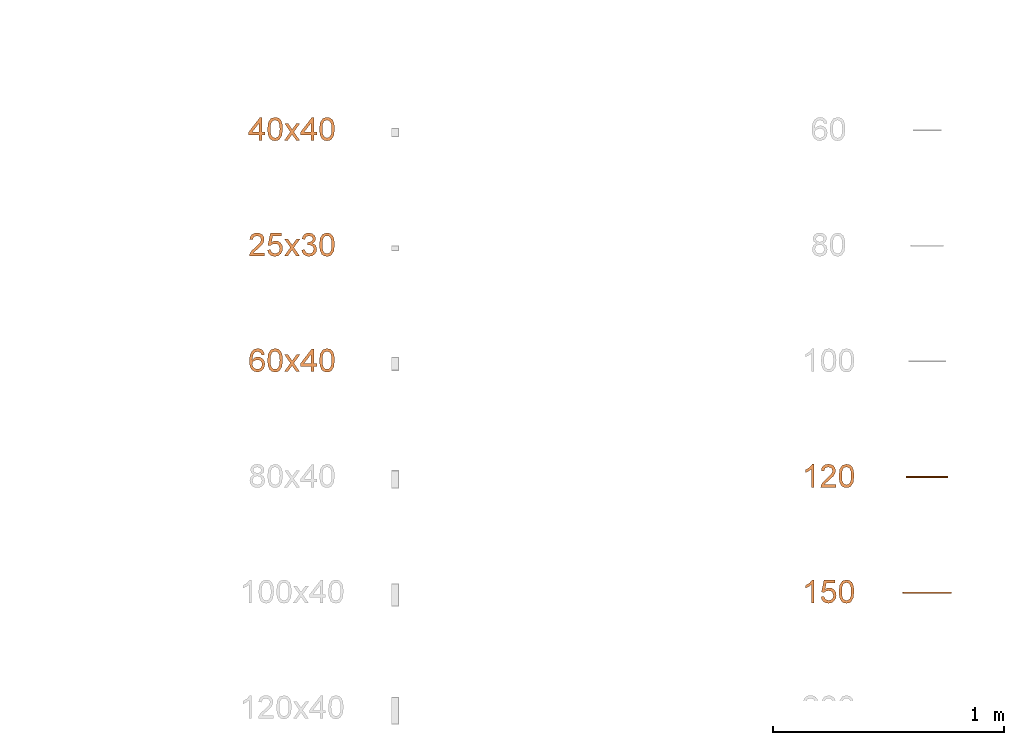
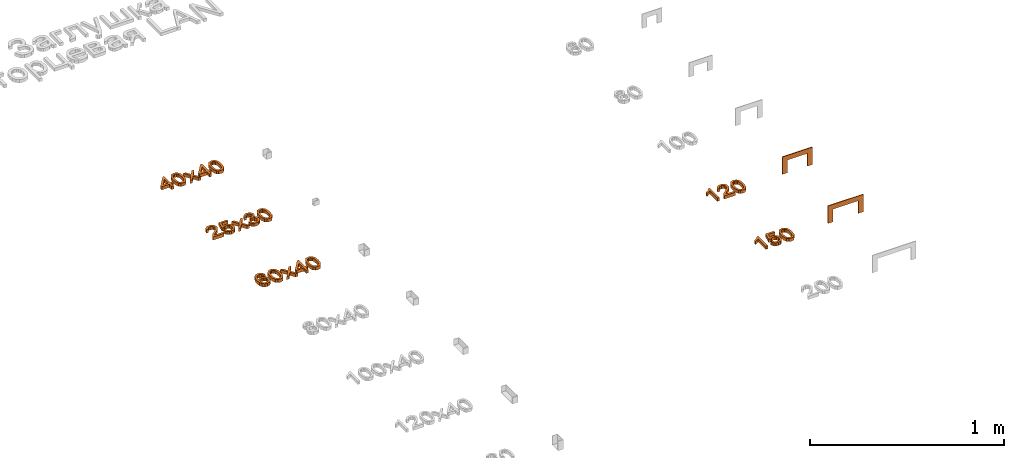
# One storey, part 65 of 71: 7 proxies.
"""IFC2X3 building model written with IfcOpenShell, lengths in millimetres."""

from ifc_helpers import new_model, entity, si_unit, converted_unit, derived_unit, direction, frame, origin, place, context, subcontext, project, spatial, polyline, outline, extrude, source, transform, mapped, material, type_object, type_shapes, element, save


model = new_model("IFC2X3")

# Units and contexts
model_context = context("Model", 3, precision=0.01, world=origin(), true_north=direction((6.12303176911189e-17, 1.0)))
body_context = subcontext(model_context, "Body", "Model", "MODEL_VIEW")
ifc_project = project(units=[si_unit("LENGTHUNIT", "METRE", prefix="MILLI"), si_unit("AREAUNIT", "SQUARE_METRE"), si_unit("VOLUMEUNIT", "CUBIC_METRE"), converted_unit("PLANEANGLEUNIT", "DEGREE", entity("IfcRatioMeasure", 0.0174532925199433), si_unit("PLANEANGLEUNIT", "RADIAN"), dimensions=[0, 0, 0, 0, 0, 0, 0]), si_unit("MASSUNIT", "GRAM", prefix="KILO"), derived_unit("MASSDENSITYUNIT", [(si_unit("MASSUNIT", "GRAM", prefix="KILO"), 1), (si_unit("LENGTHUNIT", "METRE"), -3)]), si_unit("TIMEUNIT", "SECOND"), si_unit("FREQUENCYUNIT", "HERTZ"), si_unit("THERMODYNAMICTEMPERATUREUNIT", "DEGREE_CELSIUS"), derived_unit("THERMALTRANSMITTANCEUNIT", [(si_unit("MASSUNIT", "GRAM", prefix="KILO"), 1), (si_unit("THERMODYNAMICTEMPERATUREUNIT", "KELVIN"), -1), (si_unit("TIMEUNIT", "SECOND"), -3)]), derived_unit("VOLUMETRICFLOWRATEUNIT", [(si_unit("LENGTHUNIT", "METRE"), 3), (si_unit("TIMEUNIT", "SECOND"), -1)]), si_unit("ELECTRICCURRENTUNIT", "AMPERE"), si_unit("ELECTRICVOLTAGEUNIT", "VOLT"), si_unit("POWERUNIT", "WATT"), si_unit("FORCEUNIT", "NEWTON", prefix="KILO"), si_unit("ILLUMINANCEUNIT", "LUX"), si_unit("LUMINOUSFLUXUNIT", "LUMEN"), si_unit("LUMINOUSINTENSITYUNIT", "CANDELA"), derived_unit("USERDEFINED", [(si_unit("MASSUNIT", "GRAM", prefix="KILO"), -1), (si_unit("LENGTHUNIT", "METRE"), -2), (si_unit("TIMEUNIT", "SECOND"), 3), (si_unit("LUMINOUSFLUXUNIT", "LUMEN"), 1)]), derived_unit("LINEARVELOCITYUNIT", [(si_unit("LENGTHUNIT", "METRE"), 1), (si_unit("TIMEUNIT", "SECOND"), -1)]), si_unit("PRESSUREUNIT", "PASCAL"), derived_unit("USERDEFINED", [(si_unit("LENGTHUNIT", "METRE"), -2), (si_unit("MASSUNIT", "GRAM", prefix="KILO"), 1), (si_unit("TIMEUNIT", "SECOND"), -2)])], contexts=[model_context])

# Site, building, storey
site_placement = place(None, origin())
site = spatial("IfcSite", under=ifc_project, at=site_placement, Name="Default", CompositionType="ELEMENT")
building_placement = place(site_placement, origin())
building = spatial("IfcBuilding", under=site, at=building_placement, Name="Наименование здания", CompositionType="ELEMENT")
storey_placement = place(building_placement, origin())
storey = spatial("IfcBuildingStorey", under=building, at=storey_placement, Name="Этаж 01", CompositionType="ELEMENT", Elevation=0.0)

# Proxies
ifc_material = material(Name="DKC_Пластик_Белый")
building_element_proxy_type_1 = type_object("IfcBuildingElementProxyType", Name="TA-GN 60x...", PredefinedType="NOTDEFINED", material=ifc_material)
shared_shape_1 = source(origin(), body_context, "Body", "SweptSolid", [
    extrude(outline(polyline([(-90.0, -62.5000000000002), (90.0, -62.5000000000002), (90.0, 47.5000000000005), (60.0, 47.5000000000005), (60.0, -32.5000000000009), (-60.0, -32.5000000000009), (-60.0, 47.5000000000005), (-90.0, 47.5000000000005), (-90.0, -62.5000000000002)])), frame((0.0, -5.0, 47.5000000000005), z_axis=(0.0, 1.0, 0.0), x_axis=(1.0, 0.0, 0.0)), (0.0, 0.0, 1.0), 5.00000000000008),
])
type_shapes(building_element_proxy_type_1, [shared_shape_1])
proxy_1_placement = place(storey_placement, frame((26885.9059986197, 1593.71330379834, 0.0)))
element("IfcBuildingElementProxy", 1, at=proxy_1_placement, inside=storey, type_object=building_element_proxy_type_1, material=ifc_material, Name="КНС_РамкаДляВводаRQM_ILC_DKC:TA-GN 60x...", ObjectType="TA-GN 60x...", context=body_context, shape_type="MappedRepresentation", body=[
    mapped(shared_shape_1, transform((0.0, 0.0, 0.0), scale=1.0)),
])
building_element_proxy_type_2 = type_object("IfcBuildingElementProxyType", Name="TA-GN 60x...", PredefinedType="NOTDEFINED", material=ifc_material)
shared_shape_2 = source(origin(), body_context, "Body", "SweptSolid", [
    extrude(outline(polyline([(-105.0, -62.5000000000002), (105.0, -62.5000000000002), (105.0, 47.5000000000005), (75.0, 47.5000000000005), (75.0, -32.5000000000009), (-75.0, -32.5000000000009), (-75.0, 47.5000000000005), (-105.0, 47.5000000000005), (-105.0, -62.5000000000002)])), frame((0.0, -5.0, 47.5000000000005), z_axis=(0.0, 1.0, 0.0), x_axis=(1.0, 0.0, 0.0)), (0.0, 0.0, 1.0), 5.00000000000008),
])
type_shapes(building_element_proxy_type_2, [shared_shape_2])
proxy_2_placement = place(storey_placement, frame((26885.9059986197, 1093.71330379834, 0.0)))
element("IfcBuildingElementProxy", 2, at=proxy_2_placement, inside=storey, type_object=building_element_proxy_type_2, material=ifc_material, Name="КНС_РамкаДляВводаRQM_ILC_DKC:TA-GN 60x...", ObjectType="TA-GN 60x...", context=body_context, shape_type="MappedRepresentation", body=[
    mapped(shared_shape_2, transform((0.0, 0.0, 0.0), scale=1.0)),
])
proxy_3_placement = place(storey_placement, origin())
element("IfcBuildingElementProxy", 3, at=proxy_3_placement, inside=storey, Name="Текст модели:100 мм Arial", ObjectType="Текст модели:100 мм Arial", context=body_context, shape_type="SweptSolid", body=[
    extrude(outline(polyline([(-1.14154897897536, -36.3868737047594), (11.4154897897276, -36.3868737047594), (11.4154897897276, -12.8424260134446), (23.9725285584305, -12.8424260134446), (23.9725285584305, -0.285387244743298), (11.4154897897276, -0.285387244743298), (11.4154897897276, 62.4998065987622), (1.99771071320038, 62.4998065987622), (-46.6608145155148, -0.285387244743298), (-46.6608145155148, -12.8424260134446), (-1.14154897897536, -12.8424260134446), (-1.14154897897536, -36.3868737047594)]), holes=[polyline([(-1.14154897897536, -0.285387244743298), (-31.2097707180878, -0.285387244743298), (-1.14154897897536, 38.5139005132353), (-1.14154897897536, -0.285387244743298)])]), frame((23998.363794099, 3083.05161790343, 0.0)), (0.0, 0.0, 1.0), 20.0),
    extrude(outline(polyline([(-7.02884310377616, -33.3490673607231), (17.5323805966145, -33.3490673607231), (35.1984171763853, -27.6137612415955), (43.3439841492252, -18.4876517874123), (47.0516941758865, -5.75150665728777), (46.716202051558, 4.48638208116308), (43.4465778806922, 13.0955287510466), (27.9444305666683, 25.6659118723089), (-0.314338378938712, 32.2325535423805), (-24.0296505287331, 32.367828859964), (-39.4143020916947, 28.0260881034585), (-49.7293680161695, 18.9002174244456), (-54.4436715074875, 4.63998875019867), (-50.8676582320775, -14.1301059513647), (-35.405854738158, -26.7333390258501), (-7.02884310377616, -33.3490673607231)]), holes=[polyline([(-5.77428774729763, -20.8548320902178), (-25.0157644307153, -17.3562860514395), (-36.725708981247, -11.5717922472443), (-41.0962588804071, -4.77599682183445), (-41.9669219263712, 3.21464792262), (-39.2244253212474, 11.2791292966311), (-32.8654063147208, 17.2229259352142), (-20.9698370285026, 20.2947501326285), (-1.61768958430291, 19.743314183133), (17.8514140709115, 16.2707701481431), (28.7803640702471, 10.7141596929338), (33.5546988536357, 3.61815959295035), (34.5599568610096, -4.47255337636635), (31.9421230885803, -12.192319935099), (25.8471825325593, -18.1754808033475), (14.0250679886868, -21.4027476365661), (-5.77428774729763, -20.8548320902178)])]), frame((24067.2152691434, 3092.48792113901, 0.0), z_axis=(0.0, 0.0, 1.0), x_axis=(0.101851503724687, -0.994799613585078, 0.0)), (0.0, 0.0, 1.0), 20.0),
    extrude(outline(polyline([(-34.5302215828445, -38.4265006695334), (-19.4225343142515, -38.4265006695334), (-0.341721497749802, -12.0616243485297), (2.47870713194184, -16.1328517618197), (17.8561745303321, -38.4265006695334), (32.9638617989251, -38.4265006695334), (7.40832586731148, -1.34399555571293), (33.9448804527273, 35.3461020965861), (18.8371931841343, 35.3461020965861), (4.95577923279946, 16.1671874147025), (0.0261604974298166, 9.34910777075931), (-5.66374769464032, 17.6877663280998), (-17.8529044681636, 35.3461020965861), (-32.9605917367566, 35.3461020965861), (-7.69936140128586, -1.34399555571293), (-34.5302215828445, -38.4265006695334)])), frame((24140.0569260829, 3085.09124486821, 0.0)), (0.0, 0.0, 1.0), 20.0),
    extrude(outline(polyline([(-1.14154897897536, -36.3868737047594), (11.4154897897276, -36.3868737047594), (11.4154897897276, -12.8424260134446), (23.9725285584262, -12.8424260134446), (23.9725285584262, -0.285387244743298), (11.4154897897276, -0.285387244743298), (11.4154897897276, 62.4998065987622), (1.99771071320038, 62.4998065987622), (-46.6608145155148, -0.285387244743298), (-46.6608145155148, -12.8424260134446), (-1.14154897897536, -12.8424260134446), (-1.14154897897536, -36.3868737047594)]), holes=[polyline([(-1.14154897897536, -0.285387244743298), (-31.2097707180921, -0.285387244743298), (-1.14154897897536, 38.5139005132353), (-1.14154897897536, -0.285387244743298)])]), frame((24222.8208620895, 3083.05161790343, 0.0)), (0.0, 0.0, 1.0), 20.0),
    extrude(outline(polyline([(-7.02884310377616, -33.3490673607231), (17.5323805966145, -33.3490673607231), (35.1984171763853, -27.6137612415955), (43.3439841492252, -18.4876517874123), (47.0516941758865, -5.75150665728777), (46.716202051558, 4.48638208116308), (43.4465778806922, 13.0955287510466), (27.9444305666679, 25.6659118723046), (-0.314338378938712, 32.2325535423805), (-24.0296505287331, 32.367828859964), (-39.4143020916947, 28.0260881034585), (-49.7293680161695, 18.9002174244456), (-54.4436715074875, 4.63998875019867), (-50.8676582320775, -14.1301059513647), (-35.405854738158, -26.7333390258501), (-7.02884310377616, -33.3490673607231)]), holes=[polyline([(-5.77428774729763, -20.8548320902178), (-25.0157644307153, -17.3562860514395), (-36.7257089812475, -11.5717922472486), (-41.0962588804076, -4.77599682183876), (-41.9669219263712, 3.21464792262), (-39.2244253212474, 11.2791292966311), (-32.8654063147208, 17.2229259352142), (-20.9698370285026, 20.2947501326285), (-1.61768958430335, 19.7433141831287), (17.8514140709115, 16.2707701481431), (28.7803640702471, 10.7141596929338), (33.5546988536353, 3.61815959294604), (34.5599568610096, -4.47255337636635), (31.9421230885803, -12.192319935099), (25.8471825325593, -18.1754808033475), (14.0250679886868, -21.4027476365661), (-5.77428774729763, -20.8548320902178)])]), frame((24291.672337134, 3092.48792113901, 0.0), z_axis=(0.0, 0.0, 1.0), x_axis=(0.101851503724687, -0.994799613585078, 0.0)), (0.0, 0.0, 1.0), 20.0),
])
proxy_4_placement = place(storey_placement, origin())
element("IfcBuildingElementProxy", 4, at=proxy_4_placement, inside=storey, Name="Текст модели:100 мм Arial", ObjectType="Текст модели:100 мм Arial", context=body_context, shape_type="SweptSolid", body=[
    extrude(outline(polyline([(-32.3858783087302, -45.1669477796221), (-32.3858783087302, -57.7239865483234), (33.5385752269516, -57.7239865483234), (32.1896745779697, -49.0664969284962), (24.5622545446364, -35.7369059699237), (8.84143061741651, -21.1810416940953), (-12.8390816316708, -0.26081890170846), (-18.2592096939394, 13.9639515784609), (-13.1456499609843, 25.4786580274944), (0.208466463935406, 30.1752848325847), (14.1266686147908, 25.5890226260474), (19.4119066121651, 12.9093565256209), (31.9689453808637, 14.4789863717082), (28.9247218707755, 26.6252235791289), (22.3426998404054, 35.4973110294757), (12.5662358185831, 40.9235704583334), (-0.0613136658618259, 42.732323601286), (-12.7808336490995, 40.721235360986), (-22.5389035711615, 34.6879706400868), (-28.746912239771, 25.6748617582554), (-30.8162484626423, 14.7242410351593), (-28.5844310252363, 2.81712712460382), (-21.1654774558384, -9.49465698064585), (-3.17604789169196, -26.6992716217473), (11.2694517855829, -38.7780637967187), (16.9348345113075, -45.1669477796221), (-32.3858783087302, -45.1669477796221)])), frame((23988.3808145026, 2604.388730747, 0.0), z_axis=(0.0, 0.0, -1.0), x_axis=(-1.0, 0.0, 0.0)), (0.0, 0.0, -1.0), 20.0),
    extrude(outline(polyline([(3.81439562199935, -37.2548959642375), (15.7323946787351, -37.2548959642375), (26.1588137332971, -33.0579698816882), (34.2921694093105, -25.0537205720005), (39.3309783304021, -13.6317508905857), (40.2219288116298, 1.43409098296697), (34.3991305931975, 14.681510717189), (25.5350217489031, 23.1481891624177), (13.9054384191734, 28.2770976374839), (0.912111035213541, 29.4702838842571), (-10.715925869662, 25.7768606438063), (-19.7427074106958, 18.0989984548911), (-24.9322687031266, 7.33886785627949), (-25.5937300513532, -2.21124798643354), (-22.6370240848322, -12.2793380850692), (-47.9924930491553, 0.0204883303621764), (-38.0977082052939, 37.2324069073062), (-50.2330599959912, 40.459241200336), (-62.7370428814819, -6.5652469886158), (-15.5021967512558, -30.4943712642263), (-10.7584434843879, -18.7623737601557), (-14.4216298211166, -10.4922324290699), (-13.6981616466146, 0.722667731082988), (-9.98738154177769, 9.35727561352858), (-4.32553373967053, 14.6878856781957), (11.4370636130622, 15.9400687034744), (19.7481682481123, 12.2772427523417), (25.4355726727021, 6.4063224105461), (28.0665145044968, -1.27212018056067), (27.2082313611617, -10.3575128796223), (19.6530635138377, -21.9256319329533), (5.52431094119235, -24.7161898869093), (3.81439562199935, -37.2548959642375)])), frame((24068.3473429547, 2586.60829824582, 0.0), z_axis=(0.0, 0.0, 1.0), x_axis=(0.256974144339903, -0.966418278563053, 0.0)), (0.0, 0.0, 1.0), 20.0),
    extrude(outline(polyline([(-34.5302215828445, -38.4265006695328), (-19.4225343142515, -38.4265006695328), (-0.341721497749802, -12.0616243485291), (2.47870713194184, -16.1328517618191), (17.8561745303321, -38.4265006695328), (32.9638617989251, -38.4265006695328), (7.40832586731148, -1.34399555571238), (33.9448804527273, 35.3461020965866), (18.8371931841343, 35.3461020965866), (4.95577923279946, 16.1671874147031), (0.0261604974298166, 9.34910777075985), (-5.66374769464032, 17.6877663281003), (-17.8529044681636, 35.3461020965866), (-32.9605917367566, 35.3461020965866), (-7.69936140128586, -1.34399555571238), (-34.5302215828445, -38.4265006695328)])), frame((24140.0569260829, 2585.09124486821, 0.0)), (0.0, 0.0, 1.0), 20.0),
    extrude(outline(polyline([(12.9398224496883, -39.4228746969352), (24.7070155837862, -39.4228746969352), (35.2334179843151, -35.1796885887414), (43.539211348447, -27.2068749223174), (48.6445773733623, -16.0179922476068), (49.966729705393, -2.46420805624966), (46.1713151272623, 9.85942403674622), (38.21235085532, 19.5155094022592), (27.0438541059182, 25.0666534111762), (10.0202742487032, 24.7454624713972), (-1.87398827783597, 13.8140826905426), (-7.1715685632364, 25.9452321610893), (-17.4163250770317, 32.3622268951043), (-30.6023287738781, 32.1723416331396), (-42.4844766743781, 24.4416767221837), (-49.8086882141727, 10.7455169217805), (-51.0194511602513, -0.289536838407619), (-48.341169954, -10.3555163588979), (-41.9598673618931, -18.9246782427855), (-32.0615661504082, -25.469279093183), (-27.2304373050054, -13.7729910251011), (-36.9582136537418, -4.72585730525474), (-37.5811201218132, 7.8540317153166), (-30.7090409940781, 18.2284262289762), (-20.0239599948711, 20.0569105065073), (-14.161669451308, 16.811034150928), (-11.0038541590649, 11.0256101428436), (-11.2910014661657, -3.66989129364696), (-11.9642066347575, -5.57066078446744), (-0.222565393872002, -10.2362102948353), (0.778769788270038, -1.38153044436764), (9.50511511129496, 11.0278528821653), (23.5137057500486, 13.0140189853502), (35.3107062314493, 3.90868905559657), (37.5820165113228, -3.60465058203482), (36.6502541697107, -12.2749561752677), (29.3231481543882, -23.7071568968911), (14.7432148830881, -26.897271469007), (12.9398224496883, -39.4228746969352)])), frame((24215.4729179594, 2596.24313576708, 0.0), z_axis=(0.0, 0.0, 1.0), x_axis=(0.264175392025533, -0.964474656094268, 0.0)), (0.0, 0.0, 1.0), 20.0),
    extrude(outline(polyline([(-7.02884310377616, -33.3490673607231), (17.5323805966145, -33.3490673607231), (35.1984171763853, -27.6137612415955), (43.3439841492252, -18.4876517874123), (47.0516941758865, -5.75150665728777), (46.716202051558, 4.48638208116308), (43.4465778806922, 13.0955287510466), (27.9444305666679, 25.6659118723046), (-0.314338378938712, 32.2325535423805), (-24.0296505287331, 32.367828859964), (-39.4143020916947, 28.0260881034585), (-49.7293680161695, 18.9002174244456), (-54.4436715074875, 4.63998875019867), (-50.8676582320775, -14.1301059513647), (-35.405854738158, -26.7333390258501), (-7.02884310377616, -33.3490673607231)]), holes=[polyline([(-5.77428774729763, -20.8548320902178), (-25.0157644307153, -17.3562860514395), (-36.7257089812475, -11.5717922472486), (-41.0962588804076, -4.77599682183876), (-41.9669219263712, 3.21464792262), (-39.2244253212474, 11.2791292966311), (-32.8654063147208, 17.2229259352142), (-20.9698370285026, 20.2947501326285), (-1.61768958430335, 19.7433141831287), (17.8514140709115, 16.2707701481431), (28.7803640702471, 10.7141596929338), (33.5546988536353, 3.61815959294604), (34.5599568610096, -4.47255337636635), (31.9421230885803, -12.192319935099), (25.8471825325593, -18.1754808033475), (14.0250679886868, -21.4027476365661), (-5.77428774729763, -20.8548320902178)])]), frame((24291.672337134, 2592.48792113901, 0.0), z_axis=(0.0, 0.0, 1.0), x_axis=(0.101851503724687, -0.994799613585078, 0.0)), (0.0, 0.0, 1.0), 20.0),
])
proxy_5_placement = place(storey_placement, origin())
element("IfcBuildingElementProxy", 5, at=proxy_5_placement, inside=storey, Name="Текст модели:100 мм Arial", ObjectType="Текст модели:100 мм Arial", context=body_context, shape_type="SweptSolid", body=[
    extrude(outline(polyline([(6.79275401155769, -32.502776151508), (18.3659045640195, -32.502776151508), (28.1525204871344, -28.8011371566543), (35.6312934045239, -21.7178704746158), (40.2809149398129, -11.5729874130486), (41.4130789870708, 3.23667074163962), (36.1391243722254, 16.3729018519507), (21.8599739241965, 28.880326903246), (-1.50836821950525, 38.2054593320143), (-23.6059131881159, 41.7609274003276), (-39.9814227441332, 38.5965283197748), (-51.1650797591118, 29.9216784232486), (-57.6870671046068, 16.9457940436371), (-57.9805556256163, -0.0494879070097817), (-49.2081886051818, -14.3141019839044), (-33.6167855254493, -22.9350568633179), (-20.6265742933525, -24.2502330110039), (-8.97800352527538, -20.6254922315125), (0.0919027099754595, -13.0350962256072), (5.34612034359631, -2.45330669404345), (5.85483161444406, 11.6447254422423), (-0.843339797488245, 24.991063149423), (19.7707676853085, 15.5765036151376), (28.4840991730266, 4.26766164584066), (28.389351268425, -7.46374532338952), (19.9956250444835, -18.1936336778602), (8.63303585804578, -19.982539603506), (6.79275401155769, -32.502776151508)]), holes=[polyline([(-18.758671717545, 29.9549594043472), (-11.6328110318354, 26.3613362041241), (-6.94154076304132, 20.2038317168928), (-5.85783236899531, 4.13761066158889), (-9.48331864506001, -3.95286412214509), (-15.107739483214, -9.26901644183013), (-22.3091633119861, -11.5969098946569), (-30.6656585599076, -10.7226080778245), (-38.6094491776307, -7.06141592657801), (-43.8637090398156, -1.22509865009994), (-46.1835287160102, 6.17768396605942), (-45.3239987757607, 14.5382721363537), (-39.6901171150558, 24.7221971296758), (-30.0168134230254, 30.0585493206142), (-18.758671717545, 29.9549594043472)])]), frame((23991.2577879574, 2105.21248246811, 0.0), z_axis=(0.0, 0.0, 1.0), x_axis=(-0.267015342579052, 0.963692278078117, 0.0)), (0.0, 0.0, 1.0), 20.0),
    extrude(outline(polyline([(-7.02884310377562, -33.3490673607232), (17.5323805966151, -33.3490673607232), (35.1984171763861, -27.6137612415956), (43.3439841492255, -18.4876517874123), (47.0516941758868, -5.75150665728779), (46.7162020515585, 4.48638208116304), (43.446577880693, 13.0955287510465), (27.9444305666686, 25.6659118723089), (-0.314338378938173, 32.2325535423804), (-24.0296505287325, 32.367828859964), (-39.4143020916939, 28.0260881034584), (-49.7293680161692, 18.9002174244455), (-54.4436715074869, 4.63998875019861), (-50.8676582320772, -14.1301059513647), (-35.4058547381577, -26.7333390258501), (-7.02884310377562, -33.3490673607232)]), holes=[polyline([(-5.77428774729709, -20.8548320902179), (-25.015764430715, -17.3562860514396), (-36.7257089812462, -11.5717922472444), (-41.0962588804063, -4.77599682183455), (-41.9669219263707, 3.21464792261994), (-39.2244253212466, 11.279129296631), (-32.8654063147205, 17.2229259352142), (-20.9698370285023, 20.2947501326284), (-1.61768958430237, 19.743314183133), (17.851414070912, 16.270770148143), (28.7803640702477, 10.7141596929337), (33.5546988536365, 3.61815959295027), (34.5599568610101, -4.4725533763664), (31.9421230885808, -12.192319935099), (25.8471825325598, -18.1754808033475), (14.0250679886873, -21.4027476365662), (-5.77428774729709, -20.8548320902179)])]), frame((24067.2152691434, 2092.48792113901, 0.0), z_axis=(0.0, 0.0, 1.0), x_axis=(0.101851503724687, -0.994799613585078, 0.0)), (0.0, 0.0, 1.0), 20.0),
    extrude(outline(polyline([(-34.5302215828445, -38.4265006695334), (-19.4225343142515, -38.4265006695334), (-0.341721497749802, -12.0616243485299), (2.47870713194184, -16.1328517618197), (17.8561745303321, -38.4265006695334), (32.9638617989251, -38.4265006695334), (7.40832586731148, -1.34399555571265), (33.9448804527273, 35.3461020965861), (18.8371931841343, 35.3461020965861), (4.95577923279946, 16.1671874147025), (0.0261604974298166, 9.34910777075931), (-5.66374769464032, 17.6877663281), (-17.8529044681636, 35.3461020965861), (-32.9605917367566, 35.3461020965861), (-7.69936140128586, -1.34399555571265), (-34.5302215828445, -38.4265006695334)])), frame((24140.0569260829, 2085.09124486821, 0.0)), (0.0, 0.0, 1.0), 20.0),
    extrude(outline(polyline([(-1.14154897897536, -36.3868737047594), (11.4154897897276, -36.3868737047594), (11.4154897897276, -12.8424260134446), (23.9725285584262, -12.8424260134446), (23.9725285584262, -0.285387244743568), (11.4154897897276, -0.285387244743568), (11.4154897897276, 62.4998065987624), (1.99771071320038, 62.4998065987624), (-46.6608145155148, -0.285387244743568), (-46.6608145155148, -12.8424260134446), (-1.14154897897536, -12.8424260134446), (-1.14154897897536, -36.3868737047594)]), holes=[polyline([(-1.14154897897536, -0.285387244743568), (-31.2097707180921, -0.285387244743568), (-1.14154897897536, 38.5139005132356), (-1.14154897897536, -0.285387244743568)])]), frame((24222.8208620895, 2083.05161790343, 0.0)), (0.0, 0.0, 1.0), 20.0),
    extrude(outline(polyline([(-7.02884310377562, -33.3490673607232), (17.5323805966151, -33.3490673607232), (35.1984171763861, -27.6137612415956), (43.3439841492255, -18.4876517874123), (47.0516941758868, -5.75150665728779), (46.7162020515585, 4.48638208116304), (43.446577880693, 13.0955287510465), (27.9444305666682, 25.6659118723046), (-0.314338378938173, 32.2325535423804), (-24.0296505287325, 32.367828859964), (-39.4143020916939, 28.0260881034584), (-49.7293680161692, 18.9002174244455), (-54.4436715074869, 4.63998875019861), (-50.8676582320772, -14.1301059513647), (-35.4058547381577, -26.7333390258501), (-7.02884310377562, -33.3490673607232)]), holes=[polyline([(-5.77428774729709, -20.8548320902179), (-25.015764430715, -17.3562860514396), (-36.7257089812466, -11.5717922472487), (-41.0962588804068, -4.77599682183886), (-41.9669219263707, 3.21464792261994), (-39.2244253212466, 11.279129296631), (-32.8654063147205, 17.2229259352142), (-20.9698370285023, 20.2947501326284), (-1.61768958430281, 19.7433141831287), (17.851414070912, 16.270770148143), (28.7803640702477, 10.7141596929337), (33.5546988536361, 3.61815959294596), (34.5599568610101, -4.4725533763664), (31.9421230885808, -12.192319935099), (25.8471825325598, -18.1754808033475), (14.0250679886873, -21.4027476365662), (-5.77428774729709, -20.8548320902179)])]), frame((24291.672337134, 2092.48792113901, 0.0), z_axis=(0.0, 0.0, 1.0), x_axis=(0.101851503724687, -0.994799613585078, 0.0)), (0.0, 0.0, 1.0), 20.0),
])
proxy_6_placement = place(storey_placement, origin())
element("IfcBuildingElementProxy", 6, at=proxy_6_placement, inside=storey, Name="Текст модели:100 мм Arial", ObjectType="Текст модели:100 мм Arial", context=body_context, shape_type="SweptSolid", body=[
    extrude(outline(polyline([(-63.8793021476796, -16.9184842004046), (36.5770080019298, -16.9184842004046), (36.5770080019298, -8.825080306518), (23.2106288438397, 2.34626961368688), (11.4629304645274, 20.7526321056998), (-0.407395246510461, 20.7526321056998), (5.93243780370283, 7.53340574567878), (14.4059864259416, -4.36144543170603), (-63.8793021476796, -4.36144543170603), (-63.8793021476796, -16.9184842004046)])), frame((26380.35488307, 1610.54404634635, 0.0), z_axis=(0.0, 0.0, 1.0), x_axis=(0.0, 1.0, 0.0)), (0.0, 0.0, 1.0), 20.0),
    extrude(outline(polyline([(-32.3858783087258, -45.1669477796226), (-32.3858783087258, -57.7239865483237), (33.5385752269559, -57.7239865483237), (32.1896745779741, -49.0664969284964), (24.5622545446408, -35.736905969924), (8.84143061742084, -21.1810416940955), (-12.8390816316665, -0.260818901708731), (-18.2592096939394, 13.9639515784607), (-13.1456499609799, 25.4786580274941), (0.208466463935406, 30.1752848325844), (14.1266686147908, 25.5890226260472), (19.4119066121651, 12.9093565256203), (31.968945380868, 14.4789863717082), (28.9247218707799, 26.6252235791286), (22.3426998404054, 35.4973110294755), (12.5662358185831, 40.9235704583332), (-0.0613136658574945, 42.7323236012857), (-12.7808336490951, 40.721235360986), (-22.5389035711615, 34.6879706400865), (-28.746912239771, 25.6748617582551), (-30.816248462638, 14.7242410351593), (-28.584431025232, 2.81712712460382), (-21.1654774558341, -9.49465698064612), (-3.17604789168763, -26.6992716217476), (11.2694517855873, -38.778063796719), (16.9348345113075, -45.1669477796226), (-32.3858783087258, -45.1669477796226)])), frame((26459.065279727, 1604.38873074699, 0.0), z_axis=(0.0, 0.0, -1.0), x_axis=(-1.0, 0.0, 0.0)), (0.0, 0.0, -1.0), 20.0),
    extrude(outline(polyline([(-7.02884310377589, -33.3490673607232), (17.5323805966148, -33.3490673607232), (35.1984171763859, -27.6137612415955), (43.3439841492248, -18.4876517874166), (47.0516941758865, -5.75150665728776), (46.7162020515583, 4.48638208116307), (43.4465778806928, 13.0955287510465), (27.9444305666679, 25.6659118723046), (-0.314338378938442, 32.2325535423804), (-24.0296505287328, 32.367828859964), (-39.4143020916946, 28.0260881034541), (-49.7293680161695, 18.9002174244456), (-54.4436715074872, 4.63998875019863), (-50.867658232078, -14.130105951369), (-35.405854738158, -26.7333390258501), (-7.02884310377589, -33.3490673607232)]), holes=[polyline([(-5.7742877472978, -20.8548320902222), (-25.0157644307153, -17.3562860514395), (-36.7257089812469, -11.5717922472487), (-41.096258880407, -4.77599682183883), (-41.9669219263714, 3.21464792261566), (-39.2244253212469, 11.2791292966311), (-32.8654063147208, 17.2229259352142), (-20.969837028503, 20.2947501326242), (-1.61768958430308, 19.7433141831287), (17.8514140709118, 16.270770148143), (28.7803640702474, 10.7141596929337), (33.5546988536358, 3.61815959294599), (34.5599568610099, -4.47255337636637), (31.9421230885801, -12.1923199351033), (25.8471825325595, -18.1754808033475), (14.0250679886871, -21.4027476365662), (-5.7742877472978, -20.8548320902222)])]), frame((26537.8997343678, 1592.487921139, 0.0), z_axis=(0.0, 0.0, 1.0), x_axis=(0.101851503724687, -0.994799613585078, 0.0)), (0.0, 0.0, 1.0), 20.0),
])
proxy_7_placement = place(storey_placement, origin())
element("IfcBuildingElementProxy", 7, at=proxy_7_placement, inside=storey, Name="Текст модели:100 мм Arial", ObjectType="Текст модели:100 мм Arial", context=body_context, shape_type="SweptSolid", body=[
    extrude(outline(polyline([(-63.8793021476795, -16.9184842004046), (36.5770080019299, -16.9184842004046), (36.5770080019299, -8.825080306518), (23.2106288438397, 2.34626961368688), (11.4629304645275, 20.7526321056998), (-0.407395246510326, 20.7526321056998), (5.9324378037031, 7.53340574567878), (14.4059864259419, -4.36144543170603), (-63.8793021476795, -4.36144543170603), (-63.8793021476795, -16.9184842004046)])), frame((26380.35488307, 1110.54404634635, 0.0), z_axis=(0.0, 0.0, 1.0), x_axis=(0.0, 1.0, 0.0)), (0.0, 0.0, 1.0), 20.0),
    extrude(outline(polyline([(3.81439562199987, -37.2548959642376), (15.7323946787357, -37.2548959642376), (26.1588137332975, -33.0579698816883), (34.2921694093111, -25.0537205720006), (39.3309783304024, -13.6317508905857), (40.2219288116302, 1.43409098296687), (34.3991305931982, 14.6815107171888), (25.5350217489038, 23.1481891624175), (13.9054384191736, 28.2770976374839), (0.912111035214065, 29.470283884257), (-10.7159258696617, 25.7768606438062), (-19.7427074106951, 18.0989984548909), (-24.9322687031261, 7.33886785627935), (-25.5937300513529, -2.21124798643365), (-22.6370240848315, -12.2793380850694), (-47.9924930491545, 0.0204883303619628), (-38.0977082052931, 37.232406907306), (-50.2330599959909, 40.459241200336), (-62.7370428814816, -6.56524698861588), (-15.5021967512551, -30.4943712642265), (-10.7584434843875, -18.7623737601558), (-14.4216298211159, -10.4922324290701), (-13.6981616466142, 0.722667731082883), (-9.9873815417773, 9.35727561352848), (-4.32553373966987, 14.6878856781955), (11.437063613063, 15.9400687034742), (19.7481682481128, 12.2772427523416), (25.4355726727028, 6.40632241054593), (28.0665145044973, -1.27212018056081), (27.2082313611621, -10.3575128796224), (19.6530635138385, -21.9256319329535), (5.52431094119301, -24.7161898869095), (3.81439562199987, -37.2548959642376)])), frame((26462.1199457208, 1086.60829824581, 0.0), z_axis=(0.0, 0.0, 1.0), x_axis=(0.256974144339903, -0.966418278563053, 0.0)), (0.0, 0.0, 1.0), 20.0),
    extrude(outline(polyline([(-7.02884310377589, -33.3490673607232), (17.5323805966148, -33.3490673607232), (35.1984171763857, -27.6137612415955), (43.3439841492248, -18.4876517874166), (47.0516941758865, -5.75150665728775), (46.7162020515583, 4.48638208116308), (43.4465778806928, 13.0955287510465), (27.944430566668, 25.6659118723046), (-0.314338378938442, 32.2325535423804), (-24.0296505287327, 32.367828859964), (-39.4143020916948, 28.0260881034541), (-49.7293680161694, 18.9002174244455), (-54.4436715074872, 4.63998875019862), (-50.867658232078, -14.130105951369), (-35.405854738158, -26.7333390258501), (-7.02884310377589, -33.3490673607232)]), holes=[polyline([(-5.77428774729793, -20.8548320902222), (-25.0157644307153, -17.3562860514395), (-36.725708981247, -11.5717922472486), (-41.096258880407, -4.77599682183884), (-41.9669219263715, 3.21464792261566), (-39.224425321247, 11.2791292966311), (-32.8654063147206, 17.2229259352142), (-20.9698370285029, 20.2947501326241), (-1.61768958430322, 19.7433141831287), (17.8514140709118, 16.270770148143), (28.7803640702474, 10.7141596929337), (33.5546988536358, 3.618159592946), (34.5599568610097, -4.47255337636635), (31.9421230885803, -12.1923199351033), (25.8471825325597, -18.1754808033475), (14.0250679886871, -21.4027476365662), (-5.77428774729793, -20.8548320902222)])]), frame((26537.8997343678, 1092.487921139, 0.0), z_axis=(0.0, 0.0, 1.0), x_axis=(0.101851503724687, -0.994799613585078, 0.0)), (0.0, 0.0, 1.0), 20.0),
])

save(model, "model.ifc")
